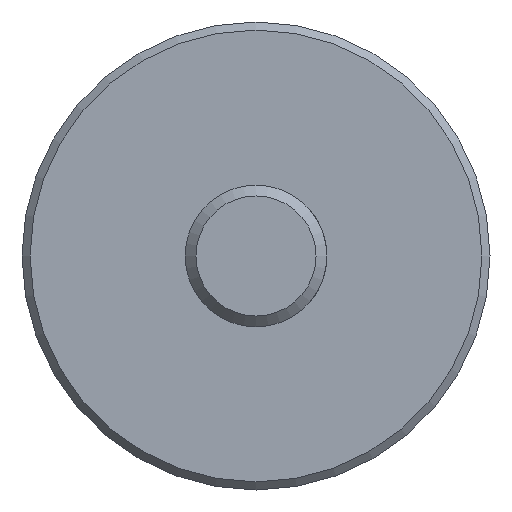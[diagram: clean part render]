
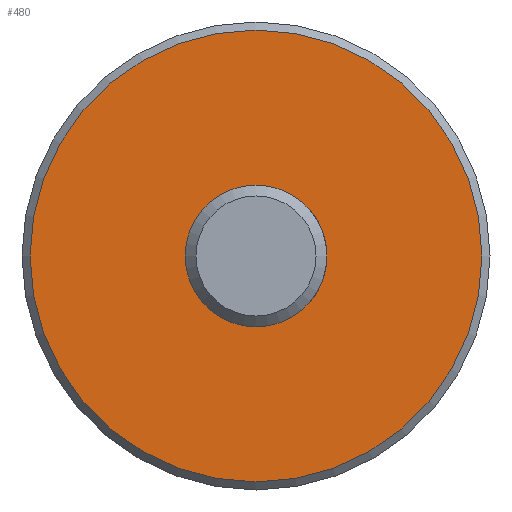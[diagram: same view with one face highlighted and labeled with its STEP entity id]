
A CAD part, front view. The second image highlights one B-rep face of the part: STEP entity #480.
In plain terms, the highlighted planar face has unit normal (0, -1, 0).
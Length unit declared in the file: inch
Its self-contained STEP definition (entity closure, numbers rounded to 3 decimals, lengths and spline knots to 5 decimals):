
#4 = AXIS2_PLACEMENT_3D ( 'NONE', #253, #36, #425 ) ;
#22 = DIRECTION ( 'NONE',  ( 0., 0., 1. ) ) ;
#36 = DIRECTION ( 'NONE',  ( 0., 1., 0. ) ) ;
#43 = DIRECTION ( 'NONE',  ( 0., 1., 0. ) ) ;
#88 = DIRECTION ( 'NONE',  ( 0., 0., 1. ) ) ;
#100 = EDGE_CURVE ( 'NONE', #430, #430, #198, .T. ) ;
#106 = AXIS2_PLACEMENT_3D ( 'NONE', #493, #43, #88 ) ;
#121 = ORIENTED_EDGE ( 'NONE', *, *, #380, .F. ) ;
#198 = CIRCLE ( 'NONE', #106, 0.3937 ) ;
#201 = CARTESIAN_POINT ( 'NONE',  ( 0., 3.33, 0.3937 ) ) ;
#206 = AXIS2_PLACEMENT_3D ( 'NONE', #557, #240, #22 ) ;
#240 = DIRECTION ( 'NONE',  ( 0., 1., 0. ) ) ;
#253 = CARTESIAN_POINT ( 'NONE',  ( 0.3937, 3.33, 0. ) ) ;
#265 = VERTEX_POINT ( 'NONE', #396 ) ;
#374 = FACE_OUTER_BOUND ( 'NONE', #381, .T. ) ;
#380 = EDGE_CURVE ( 'NONE', #265, #265, #466, .T. ) ;
#381 = EDGE_LOOP ( 'NONE', ( #121 ) ) ;
#385 = EDGE_LOOP ( 'NONE', ( #471 ) ) ;
#396 = CARTESIAN_POINT ( 'NONE',  ( 0., 3.33, 1.255 ) ) ;
#421 = PLANE ( 'NONE',  #4 ) ;
#425 = DIRECTION ( 'NONE',  ( 0., 0., 1. ) ) ;
#430 = VERTEX_POINT ( 'NONE', #201 ) ;
#466 = CIRCLE ( 'NONE', #206, 1.255 ) ;
#471 = ORIENTED_EDGE ( 'NONE', *, *, #100, .T. ) ;
#480 = ADVANCED_FACE ( 'NONE', ( #374, #520 ), #421, .F. ) ;
#493 = CARTESIAN_POINT ( 'NONE',  ( 0., 3.33, 0. ) ) ;
#520 = FACE_BOUND ( 'NONE', #385, .T. ) ;
#557 = CARTESIAN_POINT ( 'NONE',  ( 0., 3.33, 0. ) ) ;
